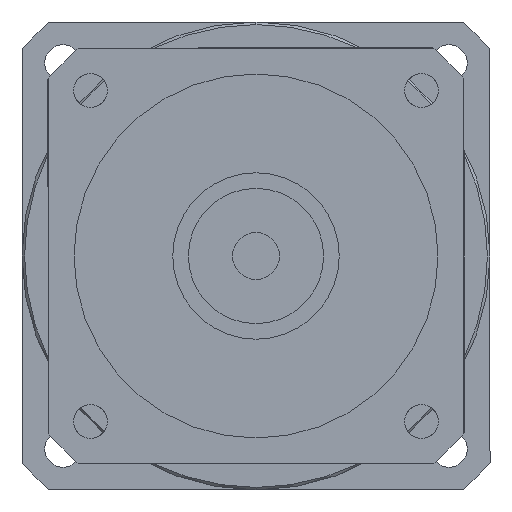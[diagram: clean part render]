
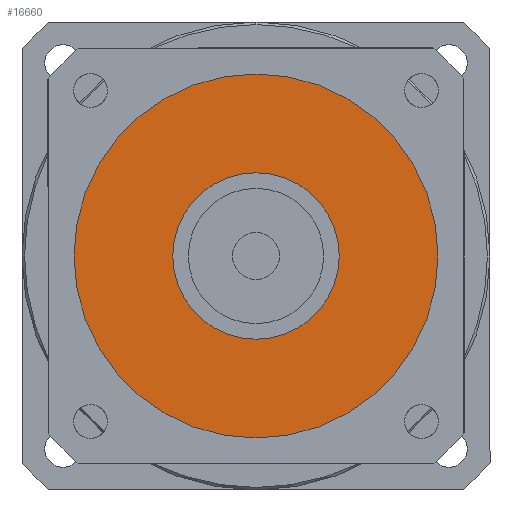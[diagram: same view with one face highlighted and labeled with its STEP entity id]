
A CAD part, left-side view. The second image highlights one B-rep face of the part: STEP entity #16660.
In plain terms, the highlighted planar face has unit normal (-1, 0, 0) as drawn and (0, 0, -1) by its records, which use the part's own axes.
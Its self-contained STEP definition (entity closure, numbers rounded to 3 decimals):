
#15950=CARTESIAN_POINT('',(0.,0.,
-113.5));
#15960=DIRECTION('',(0.,0.,1.));
#15970=DIRECTION('',(0.,-1.,0.));
#15980=AXIS2_PLACEMENT_3D('',#15950,#15960,#15970);
#15990=CIRCLE('',#15980,16.);
#16000=CARTESIAN_POINT('',(0.,-16.,-113.5));
#16010=VERTEX_POINT('',#16000);
#16020=CARTESIAN_POINT('',(16.,0.,-113.5));
#16030=VERTEX_POINT('',#16020);
#16040=EDGE_CURVE('',#16010,#16030,#15990,.T.);
#16270=CARTESIAN_POINT('',(-16.,0.,-113.5));
#16280=VERTEX_POINT('',#16270);
#16310=EDGE_CURVE('',#16280,#16010,#15990,.T.);
#16360=CARTESIAN_POINT('',(0.,0.,
-113.5));
#16370=DIRECTION('',(0.,0.,1.));
#16380=DIRECTION('',(-1.,0.,0.));
#16390=AXIS2_PLACEMENT_3D('',#16360,#16370,#16380);
#16400=PLANE('',#16390);
#16410=CARTESIAN_POINT('',(0.,0.,
-113.5));
#16420=DIRECTION('',(0.,0.,1.));
#16430=DIRECTION('',(0.,-1.,0.));
#16440=AXIS2_PLACEMENT_3D('',#16410,#16420,#16430);
#16450=CIRCLE('',#16440,35.);
#16460=CARTESIAN_POINT('',(0.,-35.,-113.5));
#16470=VERTEX_POINT('',#16460);
#16480=CARTESIAN_POINT('',(35.,0.,-113.5));
#16490=VERTEX_POINT('',#16480);
#16500=EDGE_CURVE('',#16470,#16490,#16450,.T.);
#16510=ORIENTED_EDGE('',*,*,#16500,.F.);
#16520=CARTESIAN_POINT('',(-35.,0.,-113.5));
#16530=VERTEX_POINT('',#16520);
#16540=EDGE_CURVE('',#16490,#16530,#16450,.T.);
#16550=ORIENTED_EDGE('',*,*,#16540,.F.);
#16560=EDGE_CURVE('',#16530,#16470,#16450,.T.);
#16570=ORIENTED_EDGE('',*,*,#16560,.F.);
#16580=EDGE_LOOP('',(#16570,#16550,#16510));
#16590=FACE_OUTER_BOUND('',#16580,.T.);
#16600=EDGE_CURVE('',#16030,#16280,#15990,.T.);
#16610=ORIENTED_EDGE('',*,*,#16600,.T.);
#16620=ORIENTED_EDGE('',*,*,#16040,.T.);
#16630=ORIENTED_EDGE('',*,*,#16310,.T.);
#16640=EDGE_LOOP('',(#16630,#16620,#16610));
#16650=FACE_BOUND('',#16640,.T.);
#16660=ADVANCED_FACE('',(#16590,#16650),#16400,.F.);
